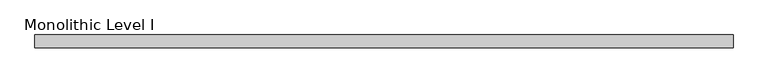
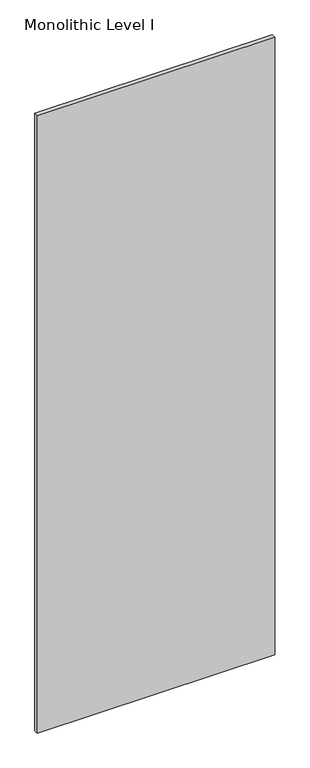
"""IFC4 building model written with IfcOpenShell, lengths in millimetres: proxy geometry, Panel-Fascia-Teknion-Altos-Standard : Monolithic Level I."""

import ifcopenshell
import ifcopenshell.guid

model = None  # the IFC model being written
_history = None  # IfcOwnerHistory: only IFC2X3 demands one
_inside = {}  # id of a spatial element -> (the spatial element, [elements in it])
_under = {}  # id of a project, library or spatial element -> (it, [spatial elements below it])
_declared = {}  # id of a project -> (the project, [libraries it declares])
_typed = {}  # id of a type object -> (the type object, [elements of that type])
_made_of = {}  # id of a material, layer set ... -> (it, [elements and type objects made of it])


def new_model(schema):
    """Start an empty IFC model of exactly this schema.

    Asked for "IFC4X3", IfcOpenShell would pick the latest addendum, in which some entities
    have other attributes; the version numbers below select the first issue.
    IFC2X3 requires an IfcOwnerHistory on every rooted entity: one is made here for all.
    """
    global model, _history
    if schema == "IFC4X3":
        model = ifcopenshell.file(schema_version=(4, 3, 0, 0))
    else:
        model = ifcopenshell.file(schema=schema)
    _inside.clear()
    _under.clear()
    _declared.clear()
    _typed.clear()
    _made_of.clear()
    _history = None
    if model.schema == "IFC2X3":
        org = make("IfcOrganization", Name="unknown")
        user = make(
            "IfcPersonAndOrganization",
            ThePerson=make("IfcPerson", FamilyName="unknown"),
            TheOrganization=org,
        )
        app = make(
            "IfcApplication",
            ApplicationDeveloper=org,
            Version="unknown",
            ApplicationFullName="unknown",
            ApplicationIdentifier="unknown",
        )
        _history = make(
            "IfcOwnerHistory",
            OwningUser=user,
            OwningApplication=app,
            ChangeAction="ADDED",
            CreationDate=0,
        )
    return model


def make(cls, **values):
    """One entity of the class cls with the attributes given. An attribute that is None is left unset."""
    return model.create_entity(
        cls, **{name: value for name, value in values.items() if value is not None}
    )


def rooted(cls, **values):
    """An entity with a GlobalId (a new one), such as an element, a storey or a relation."""
    return make(cls, GlobalId=ifcopenshell.guid.new(), OwnerHistory=_history, **values)


def si_unit(unit_type, name, prefix=None):
    """IfcSIUnit, for example si_unit("LENGTHUNIT", "METRE", prefix="MILLI")."""
    return make("IfcSIUnit", UnitType=unit_type, Prefix=prefix, Name=name)


def assignment(units):
    """IfcUnitAssignment: the units of a project."""
    return None if units is None else make("IfcUnitAssignment", Units=units)


def point(xyz):
    """IfcCartesianPoint."""
    return None if xyz is None else make("IfcCartesianPoint", Coordinates=xyz)


def direction(xyz):
    """IfcDirection."""
    return None if xyz is None else make("IfcDirection", DirectionRatios=xyz)


def frame(location, z_axis=None, x_axis=None):
    """IfcAxis2Placement3D, a coordinate frame: its origin and axes. An axis left out is left unset."""
    return make(
        "IfcAxis2Placement3D",
        Location=point(location),
        Axis=direction(z_axis),
        RefDirection=direction(x_axis),
    )


def origin():
    """The frame at (0, 0, 0) with its axes left unset."""
    return frame((0.0, 0.0, 0.0))


def place(relative_to, where):
    """IfcLocalPlacement: puts the frame where relative to a parent placement (None: the world)."""
    return make(
        "IfcLocalPlacement", PlacementRelTo=relative_to, RelativePlacement=where
    )


def context(
    kind, dimensions, precision=None, world=None, true_north=None, identifier=None
):
    """IfcGeometricRepresentationContext, for example the 3D "Model" context."""
    return make(
        "IfcGeometricRepresentationContext",
        ContextIdentifier=identifier,
        ContextType=kind,
        CoordinateSpaceDimension=dimensions,
        Precision=precision,
        WorldCoordinateSystem=world,
        TrueNorth=true_north,
    )


def project(units=None, contexts=None):
    """IfcProject with its units and contexts."""
    return rooted(
        "IfcProject",
        Name="project",
        RepresentationContexts=contexts,
        UnitsInContext=assignment(units),
    )


def spatial(cls, under=None, at=None, **own):
    """A site, building, storey or space (cls), placed at a placement, below another one or the project."""
    s = rooted(cls, ObjectPlacement=at, **own)
    if under is not None:
        _under.setdefault(under.id(), (under, []))[1].append(s)
    return s


def polyline(points):
    """IfcPolyline through the points."""
    return make("IfcPolyline", Points=[point(p) for p in points])


def outline(outer, holes=None, kind="AREA"):
    """IfcArbitraryClosedProfileDef: a profile drawn as a closed curve; with holes, ...WithVoids."""
    if holes is None:
        return make("IfcArbitraryClosedProfileDef", ProfileType=kind, OuterCurve=outer)
    return make(
        "IfcArbitraryProfileDefWithVoids",
        ProfileType=kind,
        OuterCurve=outer,
        InnerCurves=holes,
    )


def extrude(swept, where, along, depth):
    """IfcExtrudedAreaSolid: the profile swept, set in the frame where, extruded along a direction by depth."""
    return make(
        "IfcExtrudedAreaSolid",
        SweptArea=swept,
        Position=where,
        ExtrudedDirection=direction(along),
        Depth=depth,
    )


def shape(context_of_items, identifier, shape_type, items):
    """IfcShapeRepresentation: the items that make up one representation, for example the "Body"."""
    return make(
        "IfcShapeRepresentation",
        ContextOfItems=context_of_items,
        RepresentationIdentifier=identifier,
        RepresentationType=shape_type,
        Items=items,
    )


def source(mapping_origin, context_of_items, identifier, shape_type, items):
    """IfcRepresentationMap: a shape defined once, which mapped items show again and again."""
    return make(
        "IfcRepresentationMap",
        MappingOrigin=mapping_origin,
        MappedRepresentation=shape(context_of_items, identifier, shape_type, items),
    )


def transform(
    local_origin,
    x_axis=None,
    y_axis=None,
    z_axis=None,
    scale=None,
    scale2=None,
    scale3=None,
    uniform=True,
):
    """IfcCartesianTransformationOperator3D, or its non-uniform kind. x_axis, y_axis, z_axis: its Axis1, 2, 3."""
    if uniform:
        return make(
            "IfcCartesianTransformationOperator3D",
            Axis1=direction(x_axis),
            Axis2=direction(y_axis),
            LocalOrigin=point(local_origin),
            Scale=scale,
            Axis3=direction(z_axis),
        )
    return make(
        "IfcCartesianTransformationOperator3DnonUniform",
        Axis1=direction(x_axis),
        Axis2=direction(y_axis),
        LocalOrigin=point(local_origin),
        Scale=scale,
        Axis3=direction(z_axis),
        Scale2=scale2,
        Scale3=scale3,
    )


def mapped(mapping_source, mapping_target):
    """IfcMappedItem: shows the shape of a source again, moved by a transform."""
    return make(
        "IfcMappedItem", MappingSource=mapping_source, MappingTarget=mapping_target
    )


def made_of(thing, what):
    """Note that an element or type object is made of a material, layer set ...; save() writes the relation."""
    if what is not None:
        _made_of.setdefault(what.id(), (what, []))[1].append(thing)
    return thing


def element(
    cls,
    number,
    at=None,
    inside=None,
    cuts=None,
    type_object=None,
    material=None,
    context=None,
    identifier="Body",
    shape_type=None,
    held_by="IfcProductDefinitionShape",
    body=None,
    shapes=None,
    **own,
):
    """One element of the class cls, such as IfcWall. Its Tag is "e" and its number.

    at: its placement. inside: the storey or other place that contains it. cuts: it is an
    opening in that element (IfcRelVoidsElement). A single representation is given by context,
    identifier, shape_type and body (its items); several are given by shapes. held_by: the class
    of the entity that holds the representations. save() writes the other relations.
    """
    e = rooted(cls, Tag="e%d" % number, ObjectPlacement=at, **own)
    if body is not None:
        shapes = [shape(context, identifier, shape_type, body)]
    if shapes is not None:
        e.Representation = make(held_by, Representations=shapes)
    if inside is not None:
        _inside.setdefault(inside.id(), (inside, []))[1].append(e)
    if cuts is not None:
        rooted(
            "IfcRelVoidsElement", RelatingBuildingElement=cuts, RelatedOpeningElement=e
        )
    if type_object is not None:
        _typed.setdefault(type_object.id(), (type_object, []))[1].append(e)
    return made_of(e, material)


def aggregate(whole, parts):
    """IfcRelAggregates: a whole, such as a stair, and the parts it consists of."""
    return rooted("IfcRelAggregates", RelatingObject=whole, RelatedObjects=parts)


def save(model, path):
    """Write the relations noted so far, then the file.

    IfcRelAggregates (storeys below a building ...), IfcRelContainedInSpatialStructure (elements
    in a storey), IfcRelDefinesByType, IfcRelAssociatesMaterial and IfcRelDeclares: one each for
    every whole, place, type object, material and project.
    """
    for whole, parts in _under.values():
        aggregate(whole, parts)
    for where, things in _inside.values():
        rooted(
            "IfcRelContainedInSpatialStructure",
            RelatedElements=things,
            RelatingStructure=where,
        )
    for kind, things in _typed.values():
        rooted("IfcRelDefinesByType", RelatedObjects=things, RelatingType=kind)
    for what, things in _made_of.values():
        rooted("IfcRelAssociatesMaterial", RelatedObjects=things, RelatingMaterial=what)
    for by, libraries in _declared.values():
        rooted("IfcRelDeclares", RelatingContext=by, RelatedDefinitions=libraries)
    model.write(path)


def monolithic_level_i_8e8b46f9(model_context):
    return source(origin(), model_context, "Body", "SweptSolid", [
        extrude(outline(polyline([(523.2300781, -9.525), (-523.2300781, -9.525), (-523.2300781, 9.525), (523.2300781, 9.525), (523.2300781, -9.525)])), frame((0.0, 0.0, 3.175), z_axis=(0.0, 0.0, 1.0), x_axis=(1.0, 0.0, 0.0)), (0.0, 0.0, 1.0), 2877.693),
    ])


if __name__ == "__main__":
    model = new_model("IFC4")
    model_context = context("Model", 3, world=origin())
    ifc_project = project(units=[si_unit("LENGTHUNIT", "METRE", prefix="MILLI")], contexts=[model_context])
    site = spatial("IfcSite", under=ifc_project)
    building = spatial("IfcBuilding", under=site)
    placement = place(None, origin())
    monolithic_level_i_shape = monolithic_level_i_8e8b46f9(model_context)
    element("IfcBuildingElementProxy", 1, Name="Panel-Fascia-Teknion-Altos-Standard : Monolithic Level I", ObjectType="Panel-Fascia-Teknion-Altos-Standard : Monolithic Level I", at=placement, inside=building, context=model_context, shape_type="MappedRepresentation", body=[
        mapped(monolithic_level_i_shape, transform((0.0, 0.0, 0.0), x_axis=(1.0, 0.0, 0.0), y_axis=(0.0, 1.0, 0.0), z_axis=(0.0, 0.0, 1.0))),
    ])
    save(model, "model.ifc")
